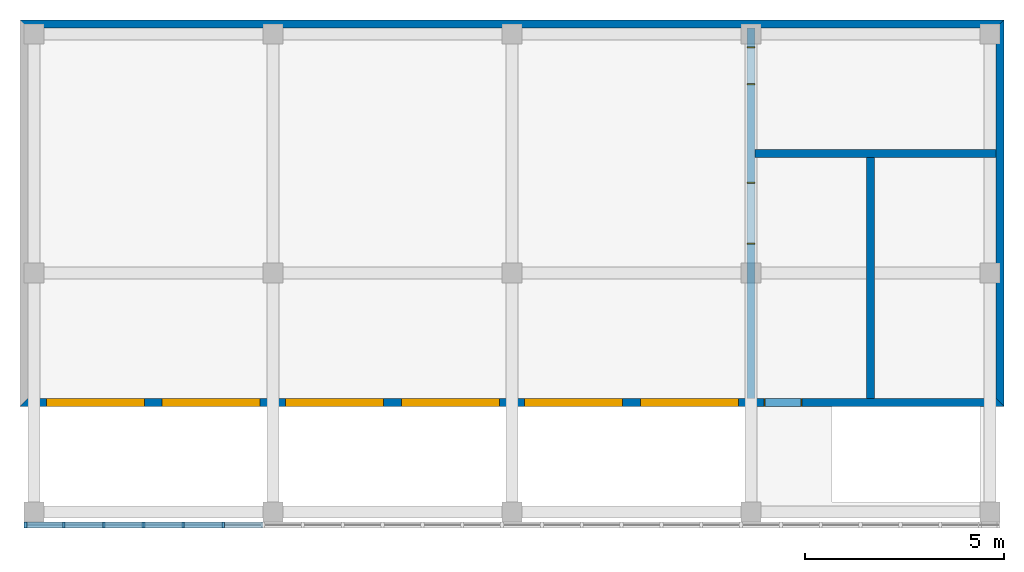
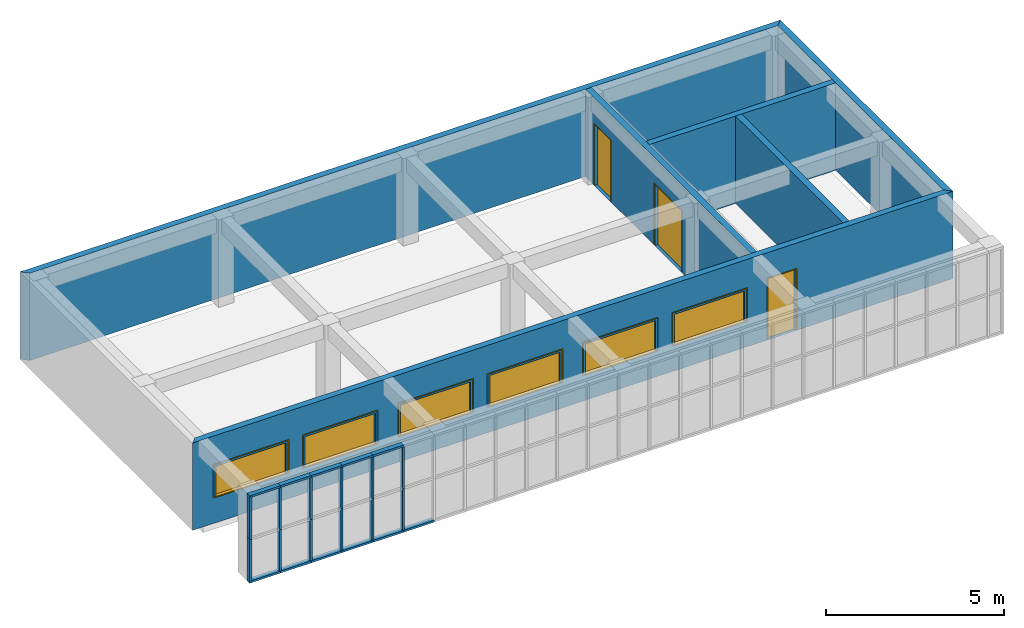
# One storey, part 2 of 4: 23 discrete accessories, 6 walls, 6 windows, 3 doors, 9 openings, 1 element without a shape of its own.
"""IFC2X3 building model written with IfcOpenShell, lengths in millimetres."""

from ifc_helpers import new_model, entity, si_unit, converted_unit, direction, frame, frame_2d, origin_with_axes, place, context, project, spatial, polyline, rectangle, outline, extrude, open_shell, surface_model, source, transform, mapped, material, layer, layer_set, layer_usage, type_object, element, fill, aggregate, save


model = new_model("IFC2X3")

# Units and contexts
model_context = context("Model", 3, precision=1e-05, world=origin_with_axes(), true_north=direction((6.123234e-17, 1.0)))
plan_context = context("Plan", 3, precision=1e-05, world=origin_with_axes(), true_north=direction((6.123234e-17, 1.0)))
ifc_project = project(units=[si_unit("LENGTHUNIT", "METRE", prefix="MILLI"), si_unit("AREAUNIT", "SQUARE_METRE"), si_unit("VOLUMEUNIT", "CUBIC_METRE"), converted_unit("PLANEANGLEUNIT", "DEGREE", entity("IfcPlaneAngleMeasure", 0.017453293), si_unit("PLANEANGLEUNIT", "RADIAN"), dimensions=[0, 0, 0, 0, 0, 0, 0]), si_unit("SOLIDANGLEUNIT", "STERADIAN"), si_unit("MASSUNIT", "GRAM"), si_unit("TIMEUNIT", "SECOND"), si_unit("THERMODYNAMICTEMPERATUREUNIT", "DEGREE_CELSIUS"), si_unit("LUMINOUSINTENSITYUNIT", "LUMEN")], contexts=[model_context, plan_context])

# Site, building, storey
site_placement = place(None, origin_with_axes())
site = spatial("IfcSite", under=ifc_project, at=site_placement, Name="\x8aO\x8d\\", CompositionType="ELEMENT")
building_placement = place(site_placement, origin_with_axes())
building = spatial("IfcBuilding", under=site, at=building_placement, Name="20101105_ArchCADMagic_002", CompositionType="ELEMENT")
storey_placement = place(building_placement, frame((0.0, 0.0, 6450.0), z_axis=(0.0, 0.0, 1.0), x_axis=(1.0, 0.0, 0.0)))
storey = spatial("IfcBuildingStorey", under=building, at=storey_placement, Name="2. 3\x8aK", CompositionType="ELEMENT", Elevation=6450.0)

# Wall, openings, door, windows
ifc_material = material(Name="\x83R\x83\x93\x83N\x83\x8a\x81[\x83g-\x8d\\\x91¢2")
ifc_layer = layer(ifc_material, 200.0, ventilated="UNKNOWN")
ifc_layer_set = layer_set([ifc_layer], Name="\x83R\x83\x93\x83N\x83\x8a\x81[\x83g-\x8d\\\x91¢2 200")
ifc_layer_usage_1 = layer_usage(ifc_layer_set, "AXIS2", "NEGATIVE", 100.0)
wall_type = type_object("IfcWallType", Name="\x83R\x83\x93\x83N\x83\x8a\x81[\x83g-\x8d\\\x91¢2 200", PredefinedType="NOTDEFINED", material=ifc_layer_set)
wall_1_placement = place(storey_placement, frame((-250.0, 2750.0, 0.0), z_axis=(0.0, 0.0, 1.0), x_axis=(1.0, 0.0, 0.0)))
wall_1 = element("IfcWallStandardCase", 1, at=wall_1_placement, inside=storey, type_object=wall_type, material=ifc_layer_usage_1, Name="W5", context=model_context, shape_type="SweptSolid", body=[
    extrude(outline(polyline([(-100.0, -100.0), (24600.0, -100.0), (24400.0, 100.0), (100.0, 100.0), (-100.0, -100.0)])), origin_with_axes(), (0.0, 0.0, 1.0), 3000.0),
])
opening_1_placement = place(wall_1_placement, frame((19050.0, -100.0, 0.0), z_axis=(0.0, 0.0, 1.0), x_axis=(1.0, 0.0, 0.0)))
opening_1 = element("IfcOpeningElement", 2, at=opening_1_placement, cuts=wall_1, ObjectType="Opening", context=model_context, shape_type="SweptSolid", body=[
    extrude(rectangle(XDim=899.0, YDim=2099.0, at=frame_2d((0.0, 1050.0), x_axis=(1.0, 0.0))), frame((0.0, 0.0, 0.0), z_axis=(0.0, 1.0, 0.0), x_axis=(-1.0, 0.0, 0.0)), (0.0, 0.0, 1.0), 200.0),
])
opening_2_placement = place(wall_1_placement, frame((1800.0, -100.0, 900.0), z_axis=(0.0, 0.0, 1.0), x_axis=(1.0, 0.0, 0.0)))
opening_2 = element("IfcOpeningElement", 3, at=opening_2_placement, cuts=wall_1, ObjectType="Opening", context=model_context, shape_type="SweptSolid", body=[
    extrude(rectangle(XDim=2400.0, YDim=1100.0, at=frame_2d((0.0, 550.0), x_axis=(1.0, 0.0))), frame((0.0, 60.0, 0.0), z_axis=(0.0, 1.0, 0.0), x_axis=(-1.0, 0.0, 0.0)), (0.0, 0.0, 1.0), 140.0),
    extrude(rectangle(XDim=2280.0, YDim=1040.0, at=frame_2d((0.0, 520.0), x_axis=(1.0, 0.0))), frame((0.0, 0.0, 0.0), z_axis=(0.0, 1.0, 0.0), x_axis=(-1.0, 0.0, 0.0)), (0.0, 0.0, 1.0), 60.0),
])
opening_3_placement = place(wall_1_placement, frame((4700.0, -100.0, 900.0), z_axis=(0.0, 0.0, 1.0), x_axis=(1.0, 0.0, 0.0)))
opening_3 = element("IfcOpeningElement", 4, at=opening_3_placement, cuts=wall_1, ObjectType="Opening", context=model_context, shape_type="SweptSolid", body=[
    extrude(rectangle(XDim=2400.0, YDim=1100.0, at=frame_2d((0.0, 550.0), x_axis=(1.0, 0.0))), frame((0.0, 60.0, 0.0), z_axis=(0.0, 1.0, 0.0), x_axis=(-1.0, 0.0, 0.0)), (0.0, 0.0, 1.0), 140.0),
    extrude(rectangle(XDim=2280.0, YDim=1040.0, at=frame_2d((0.0, 520.0), x_axis=(1.0, 0.0))), frame((0.0, 0.0, 0.0), z_axis=(0.0, 1.0, 0.0), x_axis=(-1.0, 0.0, 0.0)), (0.0, 0.0, 1.0), 60.0),
])
opening_4_placement = place(wall_1_placement, frame((7800.0, -100.0, 900.0), z_axis=(0.0, 0.0, 1.0), x_axis=(1.0, 0.0, 0.0)))
opening_4 = element("IfcOpeningElement", 5, at=opening_4_placement, cuts=wall_1, ObjectType="Opening", context=model_context, shape_type="SweptSolid", body=[
    extrude(rectangle(XDim=2400.0, YDim=1100.0, at=frame_2d((0.0, 550.0), x_axis=(1.0, 0.0))), frame((0.0, 60.0, 0.0), z_axis=(0.0, 1.0, 0.0), x_axis=(-1.0, 0.0, 0.0)), (0.0, 0.0, 1.0), 140.0),
    extrude(rectangle(XDim=2280.0, YDim=1040.0, at=frame_2d((0.0, 520.0), x_axis=(1.0, 0.0))), frame((0.0, 0.0, 0.0), z_axis=(0.0, 1.0, 0.0), x_axis=(-1.0, 0.0, 0.0)), (0.0, 0.0, 1.0), 60.0),
])
opening_5_placement = place(wall_1_placement, frame((10700.0, -100.0, 900.0), z_axis=(0.0, 0.0, 1.0), x_axis=(1.0, 0.0, 0.0)))
opening_5 = element("IfcOpeningElement", 6, at=opening_5_placement, cuts=wall_1, ObjectType="Opening", context=model_context, shape_type="SweptSolid", body=[
    extrude(rectangle(XDim=2400.0, YDim=1100.0, at=frame_2d((0.0, 550.0), x_axis=(1.0, 0.0))), frame((0.0, 60.0, 0.0), z_axis=(0.0, 1.0, 0.0), x_axis=(-1.0, 0.0, 0.0)), (0.0, 0.0, 1.0), 140.0),
    extrude(rectangle(XDim=2280.0, YDim=1040.0, at=frame_2d((0.0, 520.0), x_axis=(1.0, 0.0))), frame((0.0, 0.0, 0.0), z_axis=(0.0, 1.0, 0.0), x_axis=(-1.0, 0.0, 0.0)), (0.0, 0.0, 1.0), 60.0),
])
opening_6_placement = place(wall_1_placement, frame((13800.0, -100.0, 900.0), z_axis=(0.0, 0.0, 1.0), x_axis=(1.0, 0.0, 0.0)))
opening_6 = element("IfcOpeningElement", 7, at=opening_6_placement, cuts=wall_1, ObjectType="Opening", context=model_context, shape_type="SweptSolid", body=[
    extrude(rectangle(XDim=2400.0, YDim=1100.0, at=frame_2d((0.0, 550.0), x_axis=(1.0, 0.0))), frame((0.0, 60.0, 0.0), z_axis=(0.0, 1.0, 0.0), x_axis=(-1.0, 0.0, 0.0)), (0.0, 0.0, 1.0), 140.0),
    extrude(rectangle(XDim=2280.0, YDim=1040.0, at=frame_2d((0.0, 520.0), x_axis=(1.0, 0.0))), frame((0.0, 0.0, 0.0), z_axis=(0.0, 1.0, 0.0), x_axis=(-1.0, 0.0, 0.0)), (0.0, 0.0, 1.0), 60.0),
])
opening_7_placement = place(wall_1_placement, frame((16700.0, -100.0, 900.0), z_axis=(0.0, 0.0, 1.0), x_axis=(1.0, 0.0, 0.0)))
opening_7 = element("IfcOpeningElement", 8, at=opening_7_placement, cuts=wall_1, ObjectType="Opening", context=model_context, shape_type="SweptSolid", body=[
    extrude(rectangle(XDim=2400.0, YDim=1100.0, at=frame_2d((0.0, 550.0), x_axis=(1.0, 0.0))), frame((0.0, 60.0, 0.0), z_axis=(0.0, 1.0, 0.0), x_axis=(-1.0, 0.0, 0.0)), (0.0, 0.0, 1.0), 140.0),
    extrude(rectangle(XDim=2280.0, YDim=1040.0, at=frame_2d((0.0, 520.0), x_axis=(1.0, 0.0))), frame((0.0, 0.0, 0.0), z_axis=(0.0, 1.0, 0.0), x_axis=(-1.0, 0.0, 0.0)), (0.0, 0.0, 1.0), 60.0),
])
door_style_1 = type_object("IfcDoorStyle", ConstructionType="NOTDEFINED", OperationType="NOTDEFINED", ParameterTakesPrecedence=False, Sizeable=False)
shared_shape_1 = source(origin_with_axes(), model_context, "Body", "SurfaceModel", [
    surface_model("IfcShellBasedSurfaceModel", [(0.0, -10.0, 0.0), (0.0, -10.0, 2100.0), (900.0, -10.0, 2100.0), (900.0, -10.0, 0.0), (150.0, -10.0, 150.0), (750.0, -10.0, 150.0), (750.0, -10.0, 1950.0), (150.0, -10.0, 1950.0), (150.0, -10.0, 150.0), (150.0, -10.0, 1950.0), (750.0, -10.0, 1950.0), (750.0, -10.0, 150.0), (930.0, 90.0, 0.0), (900.0, 90.0, 0.0), (900.0, 90.0, 2100.0), (0.0, 90.0, 2100.0), (0.0, 90.0, 0.0), (-30.0, 90.0, 0.0), (-30.0, 90.0, 2130.0), (930.0, 90.0, 2130.0), (930.0, -110.0, 0.0), (900.0, -110.0, 0.0), (900.0, -110.0, 2100.0), (0.0, -110.0, 2100.0), (0.0, -110.0, 0.0), (-30.0, -110.0, 0.0), (-30.0, -110.0, 2130.0), (930.0, -110.0, 2130.0), (900.0, 90.0, 0.0), (900.0, -110.0, 0.0), (900.0, -110.0, 2100.0), (900.0, 90.0, 2100.0), (930.0, 90.0, 0.0), (930.0, -110.0, 0.0), (0.0, -110.0, 2100.0), (0.0, 90.0, 2100.0), (930.0, 90.0, 2130.0), (930.0, -110.0, 2130.0), (0.0, -110.0, 0.0), (0.0, 90.0, 0.0), (-30.0, 90.0, 2130.0), (-30.0, -110.0, 2130.0), (-30.0, -110.0, 0.0), (-30.0, 90.0, 0.0)], [open_shell([[[0, 1, 2, 3], [4, 5, 6, 7]]]), open_shell([[[8, 9, 10, 11]]]), open_shell([[[12, 13, 14, 15, 16, 17, 18, 19]]]), open_shell([[[20, 21, 22, 23, 24, 25, 26, 27]]]), open_shell([[[28, 29, 30, 31]], [[32, 33, 29, 28]], [[31, 30, 34, 35]], [[36, 37, 33, 32]], [[35, 34, 38, 39]], [[40, 41, 37, 36]], [[39, 38, 42, 43]], [[43, 42, 41, 40]]])]),
])
door_1_placement = place(opening_1_placement, frame((-450.0, 110.0, 0.0), z_axis=(0.0, 0.0, 1.0), x_axis=(1.0, 0.0, 0.0)))
door_1 = element("IfcDoor", 9, at=door_1_placement, inside=storey, type_object=door_style_1, Name="SD2", OverallHeight=2100.0, OverallWidth=900.0, context=model_context, shape_type="MappedRepresentation", body=[
    mapped(shared_shape_1, transform((0.0, 0.0, 0.0), scale=1.0)),
])
fill(opening_1, door_1)
window_style_1 = type_object("IfcWindowStyle", ConstructionType="NOTDEFINED", OperationType="NOTDEFINED", ParameterTakesPrecedence=False, Sizeable=False)
shared_shape_2 = source(origin_with_axes(), model_context, "Body", "SurfaceModel", [
    surface_model("IfcShellBasedSurfaceModel", [(2400.0, 40.0, 8.8817842e-13), (2400.0, 40.0, 1100.0), (0.0, 40.0, 1100.0), (0.0, 40.0, 8.8817842e-13), (-30.0, -60.0, -30.0), (2430.0, -60.0, -30.0), (2430.0, -60.0, 1130.0), (-30.0, -60.0, 1130.0), (0.0, -60.0, 8.8817842e-13), (0.0, -60.0, 1100.0), (2400.0, -60.0, 1100.0), (2400.0, -60.0, 8.8817842e-13), (-30.0, 140.0, -30.0), (2430.0, 140.0, -30.0), (2430.0, 140.0, 1130.0), (-30.0, 140.0, 1130.0), (0.0, 140.0, 8.8817842e-13), (0.0, 140.0, 1100.0), (2400.0, 140.0, 1100.0), (2400.0, 140.0, 8.8817842e-13), (-30.0, -60.0, -30.0), (-30.0, 140.0, -30.0), (2430.0, 140.0, -30.0), (2430.0, -60.0, -30.0), (-30.0, -60.0, 1130.0), (-30.0, 140.0, 1130.0), (2430.0, 140.0, 1130.0), (2430.0, -60.0, 1130.0), (0.0, -60.0, 8.8817842e-13), (0.0, 140.0, 8.8817842e-13), (2400.0, 140.0, 8.8817842e-13), (2400.0, -60.0, 8.8817842e-13), (0.0, -60.0, 1100.0), (0.0, 140.0, 1100.0), (2400.0, 140.0, 1100.0), (2400.0, -60.0, 1100.0)], [open_shell([[[0, 1, 2, 3]]]), open_shell([[[4, 5, 6, 7], [8, 9, 10, 11]]]), open_shell([[[12, 13, 14, 15], [16, 17, 18, 19]]]), open_shell([[[20, 21, 22, 23]], [[24, 25, 21, 20]], [[23, 22, 26, 27]], [[27, 26, 25, 24]]]), open_shell([[[28, 29, 30, 31]], [[32, 33, 29, 28]], [[31, 30, 34, 35]], [[35, 34, 33, 32]]])]),
])
window_1_placement = place(opening_2_placement, frame((-1200.0, 60.0, 0.0), z_axis=(0.0, 0.0, 1.0), x_axis=(1.0, 0.0, 0.0)))
window_1 = element("IfcWindow", 10, at=window_1_placement, inside=storey, type_object=window_style_1, Name="AW1", OverallHeight=1100.0, OverallWidth=2400.0, context=model_context, shape_type="MappedRepresentation", body=[
    mapped(shared_shape_2, transform((0.0, 0.0, 0.0), scale=1.0)),
])
fill(opening_2, window_1)
window_style_2 = type_object("IfcWindowStyle", ConstructionType="NOTDEFINED", OperationType="NOTDEFINED", ParameterTakesPrecedence=False, Sizeable=False)
window_2_placement = place(opening_3_placement, frame((-1200.0, 60.0, 0.0), z_axis=(0.0, 0.0, 1.0), x_axis=(1.0, 0.0, 0.0)))
window_2 = element("IfcWindow", 11, at=window_2_placement, inside=storey, type_object=window_style_2, Name="AW1", OverallHeight=1100.0, OverallWidth=2400.0, context=model_context, shape_type="MappedRepresentation", body=[
    mapped(shared_shape_2, transform((0.0, 0.0, 0.0), scale=1.0)),
])
fill(opening_3, window_2)
window_style_3 = type_object("IfcWindowStyle", ConstructionType="NOTDEFINED", OperationType="NOTDEFINED", ParameterTakesPrecedence=False, Sizeable=False)
window_3_placement = place(opening_4_placement, frame((-1200.0, 60.0, 0.0), z_axis=(0.0, 0.0, 1.0), x_axis=(1.0, 0.0, 0.0)))
window_3 = element("IfcWindow", 12, at=window_3_placement, inside=storey, type_object=window_style_3, Name="AW1", OverallHeight=1100.0, OverallWidth=2400.0, context=model_context, shape_type="MappedRepresentation", body=[
    mapped(shared_shape_2, transform((0.0, 0.0, 0.0), scale=1.0)),
])
fill(opening_4, window_3)
window_style_4 = type_object("IfcWindowStyle", ConstructionType="NOTDEFINED", OperationType="NOTDEFINED", ParameterTakesPrecedence=False, Sizeable=False)
window_4_placement = place(opening_5_placement, frame((-1200.0, 60.0, 0.0), z_axis=(0.0, 0.0, 1.0), x_axis=(1.0, 0.0, 0.0)))
window_4 = element("IfcWindow", 13, at=window_4_placement, inside=storey, type_object=window_style_4, Name="AW1", OverallHeight=1100.0, OverallWidth=2400.0, context=model_context, shape_type="MappedRepresentation", body=[
    mapped(shared_shape_2, transform((0.0, 0.0, 0.0), scale=1.0)),
])
fill(opening_5, window_4)
window_style_5 = type_object("IfcWindowStyle", ConstructionType="NOTDEFINED", OperationType="NOTDEFINED", ParameterTakesPrecedence=False, Sizeable=False)
window_5_placement = place(opening_6_placement, frame((-1200.0, 60.0, 0.0), z_axis=(0.0, 0.0, 1.0), x_axis=(1.0, 0.0, 0.0)))
window_5 = element("IfcWindow", 14, at=window_5_placement, inside=storey, type_object=window_style_5, Name="AW1", OverallHeight=1100.0, OverallWidth=2400.0, context=model_context, shape_type="MappedRepresentation", body=[
    mapped(shared_shape_2, transform((0.0, 0.0, 0.0), scale=1.0)),
])
fill(opening_6, window_5)
window_style_6 = type_object("IfcWindowStyle", ConstructionType="NOTDEFINED", OperationType="NOTDEFINED", ParameterTakesPrecedence=False, Sizeable=False)
window_6_placement = place(opening_7_placement, frame((-1200.0, 60.0, 0.0), z_axis=(0.0, 0.0, 1.0), x_axis=(1.0, 0.0, 0.0)))
window_6 = element("IfcWindow", 15, at=window_6_placement, inside=storey, type_object=window_style_6, Name="AW1", OverallHeight=1100.0, OverallWidth=2400.0, context=model_context, shape_type="MappedRepresentation", body=[
    mapped(shared_shape_2, transform((0.0, 0.0, 0.0), scale=1.0)),
])
fill(opening_7, window_6)

# Walls
ifc_layer_usage_2 = layer_usage(ifc_layer_set, "AXIS2", "NEGATIVE", 100.0)
wall_2_placement = place(storey_placement, frame((24250.0, 2750.0, 0.0), z_axis=(0.0, 0.0, 1.0), x_axis=(0.0, 1.0, 0.0)))
element("IfcWallStandardCase", 16, at=wall_2_placement, inside=storey, type_object=wall_type, material=ifc_layer_usage_2, Name="W6", context=model_context, shape_type="SweptSolid", body=[
    extrude(outline(polyline([(-100.0, -100.0), (9600.0, -100.0), (9400.0, 100.0), (100.0, 100.0), (-100.0, -100.0)])), origin_with_axes(), (0.0, 0.0, 1.0), 3000.0),
])
ifc_layer_usage_3 = layer_usage(ifc_layer_set, "AXIS2", "NEGATIVE", 100.0)
wall_3_placement = place(storey_placement, frame((24250.0, 12250.0, 0.0), z_axis=(0.0, 0.0, 1.0), x_axis=(-1.0, 0.0, 0.0)))
element("IfcWallStandardCase", 17, at=wall_3_placement, inside=storey, type_object=wall_type, material=ifc_layer_usage_3, Name="W7", context=model_context, shape_type="SweptSolid", body=[
    extrude(outline(polyline([(-100.0, -100.0), (24600.0, -100.0), (24400.0, 100.0), (100.0, 100.0), (-100.0, -100.0)])), origin_with_axes(), (0.0, 0.0, 1.0), 3000.0),
])

# Wall, openings, doors
ifc_layer_usage_4 = layer_usage(ifc_layer_set, "AXIS2", "NEGATIVE", 100.0)
wall_4_placement = place(storey_placement, frame((18000.0, 2750.0, 0.0), z_axis=(0.0, 0.0, 1.0), x_axis=(0.0, 1.0, 0.0)))
wall_4 = element("IfcWallStandardCase", 18, at=wall_4_placement, inside=storey, type_object=wall_type, material=ifc_layer_usage_4, Name="W9", context=model_context, shape_type="SweptSolid", body=[
    extrude(outline(polyline([(100.0, -100.0), (9400.0, -100.0), (9400.0, 100.0), (100.0, 100.0), (100.0, -100.0)])), origin_with_axes(), (0.0, 0.0, 1.0), 3000.0),
])
opening_8_placement = place(wall_4_placement, frame((8450.0, -100.0, 0.0), z_axis=(0.0, 0.0, 1.0), x_axis=(1.0, 0.0, 0.0)))
opening_8 = element("IfcOpeningElement", 19, at=opening_8_placement, cuts=wall_4, ObjectType="Opening", context=model_context, shape_type="SweptSolid", body=[
    extrude(rectangle(XDim=899.0, YDim=2099.0, at=frame_2d((0.0, 1050.0), x_axis=(1.0, 0.0))), frame((0.0, 0.0, 0.0), z_axis=(0.0, 1.0, 0.0), x_axis=(-1.0, 0.0, 0.0)), (0.0, 0.0, 1.0), 200.0),
])
opening_9_placement = place(wall_4_placement, frame((4750.0, -100.0, 0.0), z_axis=(0.0, 0.0, 1.0), x_axis=(1.0, 0.0, 0.0)))
opening_9 = element("IfcOpeningElement", 20, at=opening_9_placement, cuts=wall_4, ObjectType="Opening", context=model_context, shape_type="SweptSolid", body=[
    extrude(rectangle(XDim=1499.0, YDim=2099.0, at=frame_2d((0.0, 1050.0), x_axis=(1.0, 0.0))), frame((0.0, 0.0, 0.0), z_axis=(0.0, 1.0, 0.0), x_axis=(-1.0, 0.0, 0.0)), (0.0, 0.0, 1.0), 200.0),
])
door_style_2 = type_object("IfcDoorStyle", ConstructionType="NOTDEFINED", OperationType="NOTDEFINED", ParameterTakesPrecedence=False, Sizeable=False)
shared_shape_3 = source(origin_with_axes(), model_context, "Body", "SurfaceModel", [
    surface_model("IfcShellBasedSurfaceModel", [(0.0, -10.0, 0.0), (0.0, -10.0, 2100.0), (900.0, -10.0, 2100.0), (900.0, -10.0, 0.0), (150.0, -10.0, 150.0), (750.0, -10.0, 150.0), (750.0, -10.0, 1950.0), (150.0, -10.0, 1950.0), (150.0, -10.0, 150.0), (150.0, -10.0, 1950.0), (750.0, -10.0, 1950.0), (750.0, -10.0, 150.0), (930.0, 90.0, 0.0), (900.0, 90.0, 0.0), (900.0, 90.0, 2100.0), (0.0, 90.0, 2100.0), (0.0, 90.0, 0.0), (-30.0, 90.0, 0.0), (-30.0, 90.0, 2130.0), (930.0, 90.0, 2130.0), (930.0, -110.0, 0.0), (900.0, -110.0, 0.0), (900.0, -110.0, 2100.0), (0.0, -110.0, 2100.0), (0.0, -110.0, 0.0), (-30.0, -110.0, 0.0), (-30.0, -110.0, 2130.0), (930.0, -110.0, 2130.0), (900.0, 90.0, 0.0), (900.0, -110.0, 0.0), (900.0, -110.0, 2100.0), (900.0, 90.0, 2100.0), (930.0, 90.0, 0.0), (930.0, -110.0, 0.0), (0.0, -110.0, 2100.0), (0.0, 90.0, 2100.0), (930.0, 90.0, 2130.0), (930.0, -110.0, 2130.0), (0.0, -110.0, 0.0), (0.0, 90.0, 0.0), (-30.0, 90.0, 2130.0), (-30.0, -110.0, 2130.0), (-30.0, -110.0, 0.0), (-30.0, 90.0, 0.0)], [open_shell([[[0, 1, 2, 3], [4, 5, 6, 7]]]), open_shell([[[8, 9, 10, 11]]]), open_shell([[[12, 13, 14, 15, 16, 17, 18, 19]]]), open_shell([[[20, 21, 22, 23, 24, 25, 26, 27]]]), open_shell([[[28, 29, 30, 31]], [[32, 33, 29, 28]], [[31, 30, 34, 35]], [[36, 37, 33, 32]], [[35, 34, 38, 39]], [[40, 41, 37, 36]], [[39, 38, 42, 43]], [[43, 42, 41, 40]]])]),
])
door_2_placement = place(opening_8_placement, frame((450.0, 90.0, 0.0), z_axis=(0.0, 0.0, 1.0), x_axis=(-1.0, 0.0, 0.0)))
door_2 = element("IfcDoor", 21, at=door_2_placement, inside=storey, type_object=door_style_2, Name="SD1", OverallHeight=2100.0, OverallWidth=900.0, context=model_context, shape_type="MappedRepresentation", body=[
    mapped(shared_shape_3, transform((0.0, 0.0, 0.0), scale=1.0)),
])
fill(opening_8, door_2)
door_style_3 = type_object("IfcDoorStyle", Name="\x97¼\x8aJ\x82«\x8cË_JX4", ConstructionType="NOTDEFINED", OperationType="NOTDEFINED", ParameterTakesPrecedence=False, Sizeable=False)
shared_shape_4 = source(origin_with_axes(), model_context, "Body", "SurfaceModel", [
    surface_model("IfcShellBasedSurfaceModel", [(750.0, -10.0, 0.0), (750.0, -10.0, 2100.0), (1500.0, -10.0, 2100.0), (1500.0, -10.0, 0.0), (750.0, -10.0, 0.0), (0.0, -10.0, 0.0), (0.0, -10.0, 2100.0), (750.0, -10.0, 2100.0), (-30.0, 90.0, 0.0), (-30.0, 90.0, 2130.0), (1530.0, 90.0, 2130.0), (1530.0, 90.0, 0.0), (1500.0, 90.0, 0.0), (1500.0, 90.0, 2100.0), (0.0, 90.0, 2100.0), (0.0, 90.0, 0.0), (-30.0, -110.0, 0.0), (-30.0, -110.0, 2130.0), (1530.0, -110.0, 2130.0), (1530.0, -110.0, 0.0), (1500.0, -110.0, 0.0), (1500.0, -110.0, 2100.0), (0.0, -110.0, 2100.0), (0.0, -110.0, 0.0), (0.0, 90.0, 0.0), (0.0, 90.0, 2100.0), (0.0, -110.0, 2100.0), (0.0, -110.0, 0.0), (1500.0, 90.0, 2100.0), (1500.0, -110.0, 2100.0), (-30.0, 90.0, 0.0), (-30.0, -110.0, 0.0), (1500.0, 90.0, 0.0), (1500.0, -110.0, 0.0), (-30.0, 90.0, 2130.0), (-30.0, -110.0, 2130.0), (1530.0, 90.0, 0.0), (1530.0, -110.0, 0.0), (1530.0, 90.0, 2130.0), (1530.0, -110.0, 2130.0)], [open_shell([[[0, 1, 2, 3]]]), open_shell([[[4, 5, 6, 7]]]), open_shell([[[8, 9, 10, 11, 12, 13, 14, 15]]]), open_shell([[[16, 17, 18, 19, 20, 21, 22, 23]]]), open_shell([[[24, 25, 26, 27]], [[25, 28, 29, 26]], [[30, 24, 27, 31]], [[28, 32, 33, 29]], [[34, 30, 31, 35]], [[32, 36, 37, 33]], [[38, 34, 35, 39]], [[36, 38, 39, 37]]])]),
])
door_3_placement = place(opening_9_placement, frame((-750.0, 110.0, 0.0), z_axis=(0.0, 0.0, 1.0), x_axis=(1.0, 0.0, 0.0)))
door_3 = element("IfcDoor", 22, at=door_3_placement, inside=storey, type_object=door_style_3, Name="SD4", OverallHeight=2100.0, OverallWidth=1500.0, context=model_context, shape_type="MappedRepresentation", body=[
    mapped(shared_shape_4, transform((0.0, 0.0, 0.0), scale=1.0)),
])
fill(opening_9, door_3)

# Walls
ifc_layer_usage_5 = layer_usage(ifc_layer_set, "AXIS2", "NEGATIVE", 100.0)
wall_5_placement = place(storey_placement, frame((18000.0, 9000.0, 0.0), z_axis=(0.0, 0.0, 1.0), x_axis=(1.0, 0.0, 0.0)))
element("IfcWallStandardCase", 23, at=wall_5_placement, inside=storey, type_object=wall_type, material=ifc_layer_usage_5, Name="W0", context=model_context, shape_type="SweptSolid", body=[
    extrude(outline(polyline([(100.0, -100.0), (6150.0, -100.0), (6150.0, 100.0), (100.0, 100.0), (100.0, -100.0)])), origin_with_axes(), (0.0, 0.0, 1.0), 3000.0),
])
ifc_layer_usage_6 = layer_usage(ifc_layer_set, "AXIS2", "NEGATIVE", 100.0)
wall_6_placement = place(storey_placement, frame((21000.0, 2750.0, 0.0), z_axis=(0.0, 0.0, 1.0), x_axis=(0.0, 1.0, 0.0)))
element("IfcWallStandardCase", 24, at=wall_6_placement, inside=storey, type_object=wall_type, material=ifc_layer_usage_6, Name="W1", context=model_context, shape_type="SweptSolid", body=[
    extrude(outline(polyline([(100.0, -100.0), (6150.0, -100.0), (6150.0, 100.0), (100.0, 100.0), (100.0, -100.0)])), origin_with_axes(), (0.0, 0.0, 1.0), 3000.0),
])

# Curtain wall, discrete accessories
curtain_wall_placement = place(storey_placement, frame((-250.0, -325.0, 0.0), z_axis=(0.0, 0.0, 1.0), x_axis=(1.0, 0.0, 0.0)))
curtain_wall = element("IfcCurtainWall", 25, at=curtain_wall_placement, inside=storey, Name="CW5")
discrete_accessory_type = type_object("IfcDiscreteAccessoryType", Name="AC12_CW_Frame")
shared_shape_5 = source(origin_with_axes(), model_context, "Body", "SweptSolid", [
    extrude(outline(polyline([(0.0, 0.0), (98.994949, 4.4408921e-13), (-608.11183, -707.10678), (-657.60931, -657.60931), (0.0, 0.0)])), origin_with_axes(), (0.0, 0.0, 1.0), 150.0),
])
discrete_accessory_1_placement = place(storey_placement, frame((-180.0, -400.0, 70.0), z_axis=(0.0, 1.0, 0.0), x_axis=(-0.70710678, 0.0, -0.70710678)))
discrete_accessory_1 = element("IfcDiscreteAccessory", 26, at=discrete_accessory_1_placement, type_object=discrete_accessory_type, Name="\x8b«\x8aE-723", context=model_context, shape_type="MappedRepresentation", body=[
    mapped(shared_shape_5, transform((0.0, 0.0, 0.0), scale=1.0)),
])
shared_shape_6 = source(origin_with_axes(), model_context, "Body", "SweptSolid", [
    extrude(outline(polyline([(0.0, 0.0), (98.994949, 4.4408921e-13), (1110.1576, -1011.1627), (1060.6602, -1060.6602), (0.0, 0.0)])), origin_with_axes(), (0.0, 0.0, 1.0), 150.0),
])
discrete_accessory_2_placement = place(storey_placement, frame((-250.0, -400.0, 0.0), z_axis=(0.0, 1.0, 0.0), x_axis=(0.70710678, 0.0, 0.70710678)))
discrete_accessory_2 = element("IfcDiscreteAccessory", 27, at=discrete_accessory_2_placement, type_object=discrete_accessory_type, Name="\x8b«\x8aE-783", context=model_context, shape_type="MappedRepresentation", body=[
    mapped(shared_shape_6, transform((0.0, 0.0, 0.0), scale=1.0)),
])
shared_shape_7 = source(origin_with_axes(), model_context, "Body", "SweptSolid", [
    extrude(outline(polyline([(0.0, 0.0), (150.0, 0.0), (150.0, -1000.0), (5.5511151e-14, -1000.0), (0.0, 0.0)])), origin_with_axes(), (0.0, 0.0, 1.0), 70.0),
])
discrete_accessory_3_placement = place(storey_placement, frame((750.0, -250.0, 70.0), z_axis=(0.0, 0.0, -1.0), x_axis=(0.0, -1.0, 0.0)))
discrete_accessory_3 = element("IfcDiscreteAccessory", 28, at=discrete_accessory_3_placement, type_object=discrete_accessory_type, Name="\x8b«\x8aE-724", context=model_context, shape_type="MappedRepresentation", body=[
    mapped(shared_shape_7, transform((0.0, 0.0, 0.0), scale=1.0)),
])
discrete_accessory_4_placement = place(storey_placement, frame((1750.0, -250.0, 70.0), z_axis=(0.0, 0.0, -1.0), x_axis=(0.0, -1.0, 0.0)))
discrete_accessory_4 = element("IfcDiscreteAccessory", 29, at=discrete_accessory_4_placement, type_object=discrete_accessory_type, Name="\x8b«\x8aE-725", context=model_context, shape_type="MappedRepresentation", body=[
    mapped(shared_shape_7, transform((0.0, 0.0, 0.0), scale=1.0)),
])
discrete_accessory_5_placement = place(storey_placement, frame((2750.0, -250.0, 70.0), z_axis=(0.0, 0.0, -1.0), x_axis=(0.0, -1.0, 0.0)))
discrete_accessory_5 = element("IfcDiscreteAccessory", 30, at=discrete_accessory_5_placement, type_object=discrete_accessory_type, Name="\x8b«\x8aE-726", context=model_context, shape_type="MappedRepresentation", body=[
    mapped(shared_shape_7, transform((0.0, 0.0, 0.0), scale=1.0)),
])
discrete_accessory_6_placement = place(storey_placement, frame((3750.0, -250.0, 70.0), z_axis=(0.0, 0.0, -1.0), x_axis=(0.0, -1.0, 0.0)))
discrete_accessory_6 = element("IfcDiscreteAccessory", 31, at=discrete_accessory_6_placement, type_object=discrete_accessory_type, Name="\x8b«\x8aE-727", context=model_context, shape_type="MappedRepresentation", body=[
    mapped(shared_shape_7, transform((0.0, 0.0, 0.0), scale=1.0)),
])
discrete_accessory_7_placement = place(storey_placement, frame((4750.0, -250.0, 70.0), z_axis=(0.0, 0.0, -1.0), x_axis=(0.0, -1.0, 0.0)))
discrete_accessory_7 = element("IfcDiscreteAccessory", 32, at=discrete_accessory_7_placement, type_object=discrete_accessory_type, Name="\x8b«\x8aE-728", context=model_context, shape_type="MappedRepresentation", body=[
    mapped(shared_shape_7, transform((0.0, 0.0, 0.0), scale=1.0)),
])
discrete_accessory_8_placement = place(storey_placement, frame((750.0, -250.0, 3000.0), z_axis=(0.0, 0.0, -1.0), x_axis=(0.0, -1.0, 0.0)))
discrete_accessory_8 = element("IfcDiscreteAccessory", 33, at=discrete_accessory_8_placement, type_object=discrete_accessory_type, Name="\x8b«\x8aE-819", context=model_context, shape_type="MappedRepresentation", body=[
    mapped(shared_shape_7, transform((0.0, 0.0, 0.0), scale=1.0)),
])
discrete_accessory_9_placement = place(storey_placement, frame((1750.0, -250.0, 3000.0), z_axis=(0.0, 0.0, -1.0), x_axis=(0.0, -1.0, 0.0)))
discrete_accessory_9 = element("IfcDiscreteAccessory", 34, at=discrete_accessory_9_placement, type_object=discrete_accessory_type, Name="\x8b«\x8aE-819", context=model_context, shape_type="MappedRepresentation", body=[
    mapped(shared_shape_7, transform((0.0, 0.0, 0.0), scale=1.0)),
])
discrete_accessory_10_placement = place(storey_placement, frame((2750.0, -250.0, 3000.0), z_axis=(0.0, 0.0, -1.0), x_axis=(0.0, -1.0, 0.0)))
discrete_accessory_10 = element("IfcDiscreteAccessory", 35, at=discrete_accessory_10_placement, type_object=discrete_accessory_type, Name="\x8b«\x8aE-819", context=model_context, shape_type="MappedRepresentation", body=[
    mapped(shared_shape_7, transform((0.0, 0.0, 0.0), scale=1.0)),
])
discrete_accessory_11_placement = place(storey_placement, frame((3750.0, -250.0, 3000.0), z_axis=(0.0, 0.0, -1.0), x_axis=(0.0, -1.0, 0.0)))
discrete_accessory_11 = element("IfcDiscreteAccessory", 36, at=discrete_accessory_11_placement, type_object=discrete_accessory_type, Name="\x8b«\x8aE-819", context=model_context, shape_type="MappedRepresentation", body=[
    mapped(shared_shape_7, transform((0.0, 0.0, 0.0), scale=1.0)),
])
shared_shape_8 = source(origin_with_axes(), model_context, "Body", "SweptSolid", [
    extrude(outline(polyline([(0.0, 0.0), (150.0, 0.0), (150.0, -1430.0), (0.0, -1430.0), (0.0, 0.0)])), origin_with_axes(), (0.0, 0.0, 1.0), 70.0),
])
discrete_accessory_12_placement = place(storey_placement, frame((715.0, -250.0, 70.0), z_axis=(1.0, 0.0, 0.0), x_axis=(0.0, -1.0, 0.0)))
discrete_accessory_12 = element("IfcDiscreteAccessory", 37, at=discrete_accessory_12_placement, type_object=discrete_accessory_type, Name="\x83}\x83\x8a\x83I\x83\x93-639", context=model_context, shape_type="MappedRepresentation", body=[
    mapped(shared_shape_8, transform((0.0, 0.0, 0.0), scale=1.0)),
])
discrete_accessory_13_placement = place(storey_placement, frame((1715.0, -250.0, 70.0), z_axis=(1.0, 0.0, 0.0), x_axis=(0.0, -1.0, 0.0)))
discrete_accessory_13 = element("IfcDiscreteAccessory", 38, at=discrete_accessory_13_placement, type_object=discrete_accessory_type, Name="\x83}\x83\x8a\x83I\x83\x93-640", context=model_context, shape_type="MappedRepresentation", body=[
    mapped(shared_shape_8, transform((0.0, 0.0, 0.0), scale=1.0)),
])
discrete_accessory_14_placement = place(storey_placement, frame((2715.0, -250.0, 70.0), z_axis=(1.0, 0.0, 0.0), x_axis=(0.0, -1.0, 0.0)))
discrete_accessory_14 = element("IfcDiscreteAccessory", 39, at=discrete_accessory_14_placement, type_object=discrete_accessory_type, Name="\x83}\x83\x8a\x83I\x83\x93-641", context=model_context, shape_type="MappedRepresentation", body=[
    mapped(shared_shape_8, transform((0.0, 0.0, 0.0), scale=1.0)),
])
discrete_accessory_15_placement = place(storey_placement, frame((3715.0, -250.0, 70.0), z_axis=(1.0, 0.0, 0.0), x_axis=(0.0, -1.0, 0.0)))
discrete_accessory_15 = element("IfcDiscreteAccessory", 40, at=discrete_accessory_15_placement, type_object=discrete_accessory_type, Name="\x83}\x83\x8a\x83I\x83\x93-642", context=model_context, shape_type="MappedRepresentation", body=[
    mapped(shared_shape_8, transform((0.0, 0.0, 0.0), scale=1.0)),
])
discrete_accessory_16_placement = place(storey_placement, frame((4715.0, -250.0, 70.0), z_axis=(1.0, 0.0, 0.0), x_axis=(0.0, -1.0, 0.0)))
discrete_accessory_16 = element("IfcDiscreteAccessory", 41, at=discrete_accessory_16_placement, type_object=discrete_accessory_type, Name="\x83}\x83\x8a\x83I\x83\x93-643", context=model_context, shape_type="MappedRepresentation", body=[
    mapped(shared_shape_8, transform((0.0, 0.0, 0.0), scale=1.0)),
])
discrete_accessory_17_placement = place(storey_placement, frame((715.0, -250.0, 1500.0), z_axis=(1.0, 0.0, 0.0), x_axis=(0.0, -1.0, 0.0)))
discrete_accessory_17 = element("IfcDiscreteAccessory", 42, at=discrete_accessory_17_placement, type_object=discrete_accessory_type, Name="\x83}\x83\x8a\x83I\x83\x93-663", context=model_context, shape_type="MappedRepresentation", body=[
    mapped(shared_shape_8, transform((0.0, 0.0, 0.0), scale=1.0)),
])
discrete_accessory_18_placement = place(storey_placement, frame((1715.0, -250.0, 1500.0), z_axis=(1.0, 0.0, 0.0), x_axis=(0.0, -1.0, 0.0)))
discrete_accessory_18 = element("IfcDiscreteAccessory", 43, at=discrete_accessory_18_placement, type_object=discrete_accessory_type, Name="\x83}\x83\x8a\x83I\x83\x93-664", context=model_context, shape_type="MappedRepresentation", body=[
    mapped(shared_shape_8, transform((0.0, 0.0, 0.0), scale=1.0)),
])
discrete_accessory_19_placement = place(storey_placement, frame((2715.0, -250.0, 1500.0), z_axis=(1.0, 0.0, 0.0), x_axis=(0.0, -1.0, 0.0)))
discrete_accessory_19 = element("IfcDiscreteAccessory", 44, at=discrete_accessory_19_placement, type_object=discrete_accessory_type, Name="\x83}\x83\x8a\x83I\x83\x93-665", context=model_context, shape_type="MappedRepresentation", body=[
    mapped(shared_shape_8, transform((0.0, 0.0, 0.0), scale=1.0)),
])
discrete_accessory_20_placement = place(storey_placement, frame((3715.0, -250.0, 1500.0), z_axis=(1.0, 0.0, 0.0), x_axis=(0.0, -1.0, 0.0)))
discrete_accessory_20 = element("IfcDiscreteAccessory", 45, at=discrete_accessory_20_placement, type_object=discrete_accessory_type, Name="\x83}\x83\x8a\x83I\x83\x93-666", context=model_context, shape_type="MappedRepresentation", body=[
    mapped(shared_shape_8, transform((0.0, 0.0, 0.0), scale=1.0)),
])
discrete_accessory_21_placement = place(storey_placement, frame((4715.0, -250.0, 1500.0), z_axis=(1.0, 0.0, 0.0), x_axis=(0.0, -1.0, 0.0)))
discrete_accessory_21 = element("IfcDiscreteAccessory", 46, at=discrete_accessory_21_placement, type_object=discrete_accessory_type, Name="\x83}\x83\x8a\x83I\x83\x93-667", context=model_context, shape_type="MappedRepresentation", body=[
    mapped(shared_shape_8, transform((0.0, 0.0, 0.0), scale=1.0)),
])
shared_shape_9 = source(origin_with_axes(), model_context, "Body", "SweptSolid", [
    extrude(outline(polyline([(0.0, 0.0), (70.0, 0.0), (70.0, -1430.0), (0.0, -1500.0), (0.0, 0.0)])), origin_with_axes(), (0.0, 0.0, 1.0), 150.0),
])
discrete_accessory_22_placement = place(storey_placement, frame((-250.0, -400.0, 1500.0), z_axis=(0.0, 1.0, 0.0), x_axis=(1.0, 0.0, 0.0)))
discrete_accessory_22 = element("IfcDiscreteAccessory", 47, at=discrete_accessory_22_placement, type_object=discrete_accessory_type, Name="\x8b«\x8aE-784", context=model_context, shape_type="MappedRepresentation", body=[
    mapped(shared_shape_9, transform((0.0, 0.0, 0.0), scale=1.0)),
])
shared_shape_10 = source(origin_with_axes(), model_context, "Body", "SweptSolid", [
    extrude(outline(polyline([(0.0, 0.0), (98.994949, -8.8817842e-13), (756.60426, -657.60931), (707.10678, -707.10678), (0.0, 0.0)])), origin_with_axes(), (0.0, 0.0, 1.0), 150.0),
])
discrete_accessory_23_placement = place(storey_placement, frame((-250.0, -400.0, 3000.0), z_axis=(0.0, 1.0, 0.0), x_axis=(0.70710678, 0.0, -0.70710678)))
discrete_accessory_23 = element("IfcDiscreteAccessory", 48, at=discrete_accessory_23_placement, type_object=discrete_accessory_type, Name="\x8b«\x8aE-819", context=model_context, shape_type="MappedRepresentation", body=[
    mapped(shared_shape_10, transform((0.0, 0.0, 0.0), scale=1.0)),
])
aggregate(curtain_wall, [discrete_accessory_1, discrete_accessory_2, discrete_accessory_3, discrete_accessory_12, discrete_accessory_4, discrete_accessory_13, discrete_accessory_5, discrete_accessory_14, discrete_accessory_6, discrete_accessory_15, discrete_accessory_7, discrete_accessory_16, discrete_accessory_22, discrete_accessory_17, discrete_accessory_18, discrete_accessory_19, discrete_accessory_20, discrete_accessory_21, discrete_accessory_23, discrete_accessory_8, discrete_accessory_9, discrete_accessory_10, discrete_accessory_11])

save(model, "model.ifc")
